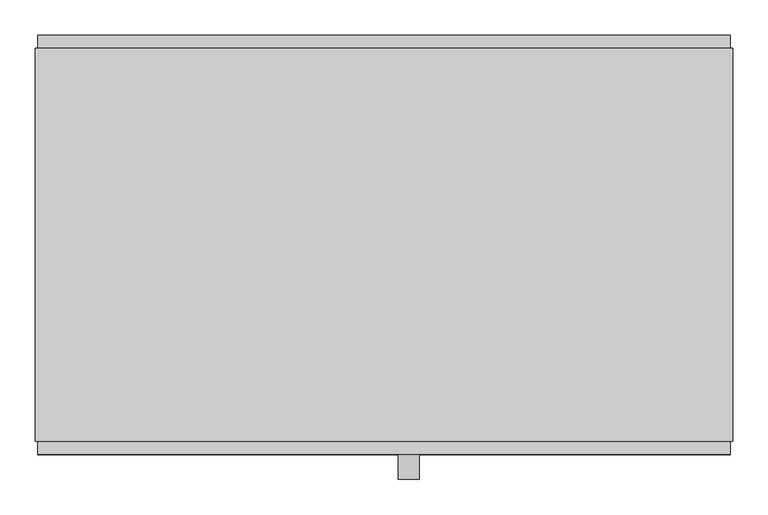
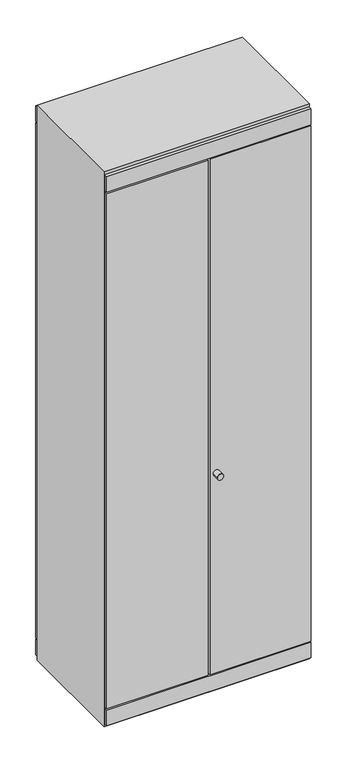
"""IFC4 building model written with IfcOpenShell, lengths in millimetres: furniture geometry, Apex - 2 DOOR - FC OR CAPPED : 2 DOOR - F/C OR CAPPED 1000mm(w) x 590mm(d)."""

from ifc_helpers import new_model, si_unit, point, frame, frame_2d, origin, place, context, project, spatial, polyline, circle_curve, trimmed, segment, composite_curve, outline, extrude, source, transform, mapped, element, save


def furniture_989d2fca(model_context):
    return source(origin(), model_context, "Body", "SweptSolid", [
        extrude(outline(composite_curve([segment(trimmed(circle_curve(frame_2d((1108.0, 526.0)), 15.0), [point((1108.0, 511.0))], [point((1108.0, 541.0))], False, "CARTESIAN"), True, "CONTINUOUS"), segment(trimmed(circle_curve(frame_2d((1108.0, 526.0)), 15.0), [point((1108.0, 541.0))], [point((1108.0, 511.0))], False, "CARTESIAN"), True, "CONTINUOUS")], self_intersect=False)), frame((0.0, -625.0, 0.0), z_axis=(0.0, 1.0, 0.0), x_axis=(0.0, 0.0, 1.0)), (0.0, 0.0, 1.0), 35.0),
        extrude(outline(polyline([(2800.0, 982.0), (2800.0, 0.0), (0.0, 0.0), (0.0, 982.0), (2800.0, 982.0)]), holes=[polyline([(115.0, 973.0), (115.0, 9.0), (2685.2991236, 9.0), (2685.2991236, 973.0), (115.0, 973.0)])]), frame((0.0, -572.0, 0.0), z_axis=(0.0, 1.0, 0.0), x_axis=(0.0, 0.0, 1.0)), (0.0, 0.0, 1.0), 554.0),
        extrude(outline(polyline([(486.0, -572.0), (486.0, -590.0), (3.0, -590.0), (3.0, -572.0), (486.0, -572.0)])), frame((0.0, 0.0, 100.0), z_axis=(0.0, 0.0, 1.0), x_axis=(1.0, 0.0, 0.0)), (0.0, 0.0, 1.0), 2600.0),
        extrude(outline(polyline([(979.0, -590.0), (496.0, -590.0), (496.0, -572.0), (979.0, -572.0), (979.0, -590.0)])), frame((0.0, 0.0, 100.0), z_axis=(0.0, 0.0, 1.0), x_axis=(1.0, 0.0, 0.0)), (0.0, 0.0, 1.0), 2600.0),
        extrude(outline(polyline([(979.0, 0.0), (979.0, -18.0), (3.0, -18.0), (3.0, 0.0), (979.0, 0.0)])), frame((0.0, 0.0, 100.0), z_axis=(0.0, 0.0, 1.0), x_axis=(1.0, 0.0, 0.0)), (0.0, 0.0, 1.0), 2600.0),
        extrude(outline(polyline([(979.0, -18.0), (3.0, -18.0), (3.0, 0.0), (979.0, 0.0), (979.0, -18.0)])), frame((0.0, 0.0, 2706.0), z_axis=(0.0, 0.0, 1.0), x_axis=(1.0, 0.0, 0.0)), (0.0, 0.0, 1.0), 79.0),
        extrude(outline(polyline([(979.0, -18.0), (3.0, -18.0), (3.0, 0.0), (979.0, 0.0), (979.0, -18.0)])), frame((0.0, 0.0, 15.0), z_axis=(0.0, 0.0, 1.0), x_axis=(1.0, 0.0, 0.0)), (0.0, 0.0, 1.0), 79.0),
        extrude(outline(polyline([(979.0, -590.0), (3.0, -590.0), (3.0, -572.0), (979.0, -572.0), (979.0, -590.0)])), frame((0.0, 0.0, 2706.0), z_axis=(0.0, 0.0, 1.0), x_axis=(1.0, 0.0, 0.0)), (0.0, 0.0, 1.0), 79.0),
        extrude(outline(polyline([(979.0, -590.0), (3.0, -590.0), (3.0, -572.0), (979.0, -572.0), (979.0, -590.0)])), frame((0.0, 0.0, 15.0), z_axis=(0.0, 0.0, 1.0), x_axis=(1.0, 0.0, 0.0)), (0.0, 0.0, 1.0), 79.0),
    ])


if __name__ == "__main__":
    model = new_model("IFC4")
    model_context = context("Model", 3, world=origin())
    ifc_project = project(units=[si_unit("LENGTHUNIT", "METRE", prefix="MILLI")], contexts=[model_context])
    site = spatial("IfcSite", under=ifc_project)
    building = spatial("IfcBuilding", under=site)
    placement = place(None, origin())
    furniture_shape = furniture_989d2fca(model_context)
    element("IfcFurniture", 1, ObjectType="Apex - 2 DOOR - FC OR CAPPED : 2 DOOR - F/C OR CAPPED 1000mm(w) x 590mm(d)", at=placement, inside=building, context=model_context, shape_type="MappedRepresentation", body=[
        mapped(furniture_shape, transform((0.0, 0.0, 0.0), x_axis=(1.0, 0.0, 0.0), y_axis=(0.0, 1.0, 0.0), z_axis=(0.0, 0.0, 1.0))),
    ])
    save(model, "model.ifc")
